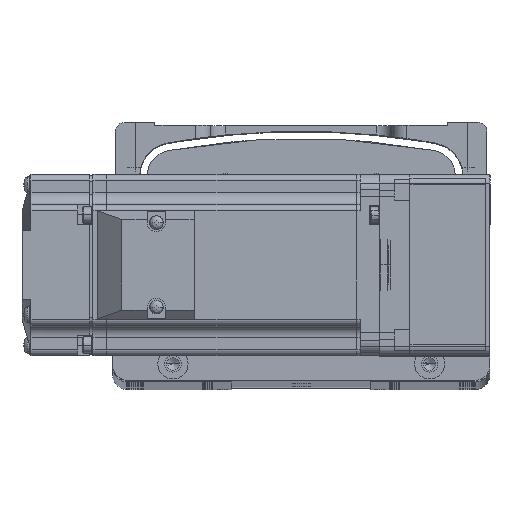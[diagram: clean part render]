
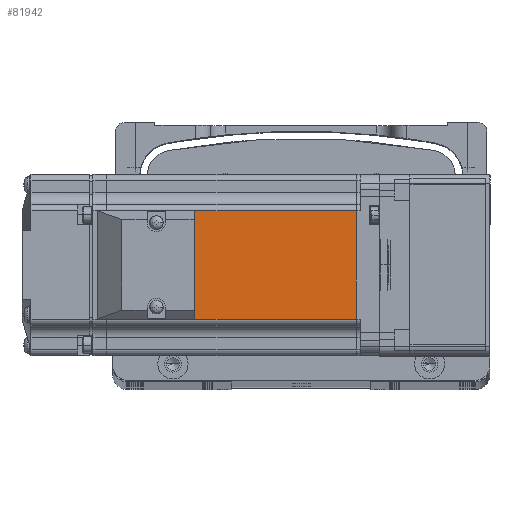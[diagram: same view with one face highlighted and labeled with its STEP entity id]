
A CAD part, top view. The second image highlights one B-rep face of the part: STEP entity #81942.
In plain terms, the highlighted planar face has unit normal (0, 0, 1) as drawn and (0, 1, 0) by its records, which use the part's own axes.
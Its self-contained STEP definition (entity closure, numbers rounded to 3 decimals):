
#3306 = ORIENTED_EDGE ( 'NONE', *, *, #81331, .T. ) ;
#4601 = CARTESIAN_POINT ( 'NONE',  ( -7.75, 30., 18. ) ) ;
#4625 = FACE_OUTER_BOUND ( 'NONE', #42709, .T. ) ;
#4685 = CARTESIAN_POINT ( 'NONE',  ( -6.5, 30., -18. ) ) ;
#4830 = PLANE ( 'NONE',  #30061 ) ;
#5489 = ORIENTED_EDGE ( 'NONE', *, *, #53012, .T. ) ;
#9004 = LINE ( 'NONE', #84586, #58328 ) ;
#11918 = CARTESIAN_POINT ( 'NONE',  ( -7.75, 30., 0. ) ) ;
#20919 = VECTOR ( 'NONE', #36106, 1000. ) ;
#21294 = EDGE_CURVE ( 'NONE', #34127, #32546, #39215, .T. ) ;
#24531 = VECTOR ( 'NONE', #51598, 1000. ) ;
#29524 = CARTESIAN_POINT ( 'NONE',  ( -7.75, 30., -18. ) ) ;
#30061 = AXIS2_PLACEMENT_3D ( 'NONE', #32088, #78934, #38845 ) ;
#30130 = EDGE_CURVE ( 'NONE', #49835, #32546, #38758, .T. ) ;
#32088 = CARTESIAN_POINT ( 'NONE',  ( -6.5, 30., 25. ) ) ;
#32546 = VERTEX_POINT ( 'NONE', #4601 ) ;
#34127 = VERTEX_POINT ( 'NONE', #29524 ) ;
#34585 = ORIENTED_EDGE ( 'NONE', *, *, #21294, .F. ) ;
#36106 = DIRECTION ( 'NONE',  ( 1., 0., 0. ) ) ;
#38106 = CARTESIAN_POINT ( 'NONE',  ( -90.45, 30., 18. ) ) ;
#38229 = VERTEX_POINT ( 'NONE', #65055 ) ;
#38758 = LINE ( 'NONE', #62754, #20919 ) ;
#38845 = DIRECTION ( 'NONE',  ( 0., 0., 1. ) ) ;
#39215 = LINE ( 'NONE', #11918, #72745 ) ;
#42398 = LINE ( 'NONE', #4685, #24531 ) ;
#42709 = EDGE_LOOP ( 'NONE', ( #34585, #5489, #3306, #62014 ) ) ;
#44538 = DIRECTION ( 'NONE',  ( 0., 0., 1. ) ) ;
#49835 = VERTEX_POINT ( 'NONE', #38106 ) ;
#51598 = DIRECTION ( 'NONE',  ( -1., 0., 0. ) ) ;
#52075 = DIRECTION ( 'NONE',  ( 0., 0., 1. ) ) ;
#53012 = EDGE_CURVE ( 'NONE', #34127, #38229, #42398, .T. ) ;
#58328 = VECTOR ( 'NONE', #44538, 1000. ) ;
#62014 = ORIENTED_EDGE ( 'NONE', *, *, #30130, .T. ) ;
#62754 = CARTESIAN_POINT ( 'NONE',  ( -6.5, 30., 18. ) ) ;
#65055 = CARTESIAN_POINT ( 'NONE',  ( -90.45, 30., -18. ) ) ;
#72745 = VECTOR ( 'NONE', #52075, 1000. ) ;
#78934 = DIRECTION ( 'NONE',  ( 0., 1., 0. ) ) ;
#81331 = EDGE_CURVE ( 'NONE', #38229, #49835, #9004, .T. ) ;
#81942 = ADVANCED_FACE ( 'NONE', ( #4625 ), #4830, .T. ) ;
#84586 = CARTESIAN_POINT ( 'NONE',  ( -90.45, 30., 0. ) ) ;
